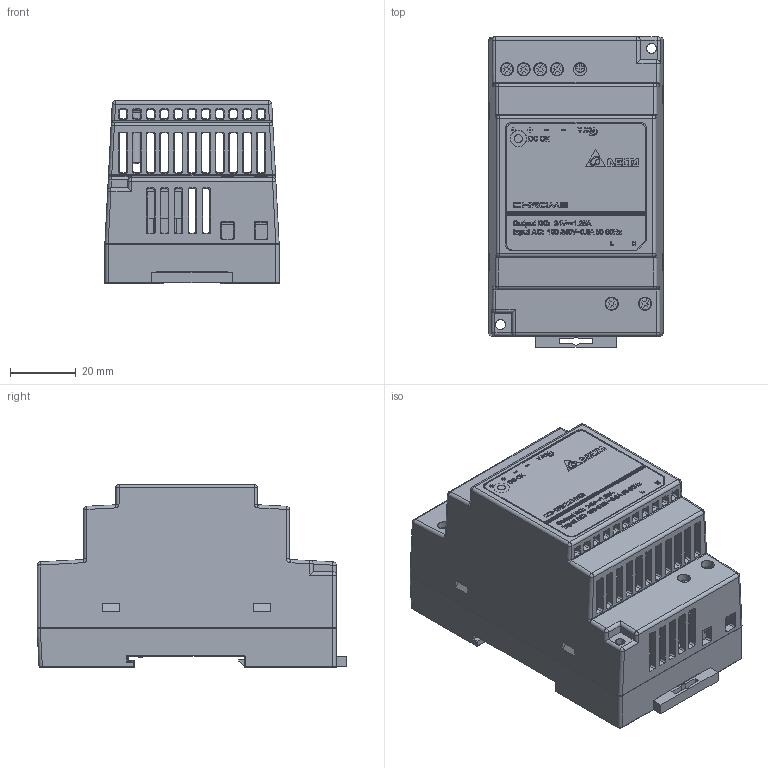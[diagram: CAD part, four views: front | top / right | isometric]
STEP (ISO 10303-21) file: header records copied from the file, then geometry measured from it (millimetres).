
FILE_DESCRIPTION((''),'2;1');
FILE_NAME('DRC-24V30W1AZ_ASM','2014-04-01T',('Anothai'),(''),'PRO/ENGINEER BY PARAMETRIC TECHNOLOGY CORPORATION, 2010180','PRO/ENGINEER BY PARAMETRIC TECHNOLOGY CORPORATION, 2010180','');
FILE_SCHEMA(('CONFIG_CONTROL_DESIGN','SHAPE_APPEARANCE_LAYERS_GROUPS'));
Products named in the file (18): 3306244100; 3306243000; LENS; 3421026502; 3268466400; PWB; EE_VR350; INPUT_103; INPUT_P201; INPUT_A03; INPUT_ASM; OUTPUT_A02; OUTPUT_PRT0001; OUTPUT_PRT0002; OUTPUT_1_ASM; OUTPUT_ASM; PWB_ASM; DRC-24V30W1AZ_ASM
Assembly tree (22 placements, depth 5):
  DRC-24V30W1AZ_ASM
    3306244100
    3306243000
    LENS
    3421026502
    3268466400
    PWB_ASM
      PWB
      EE_VR350
      INPUT_ASM
        INPUT_103  x2
        INPUT_P201  x2
        INPUT_A03
      OUTPUT_ASM
        OUTPUT_1_ASM  x2
          OUTPUT_A02
          OUTPUT_PRT0001
          OUTPUT_PRT0002
Bounding box: 53 x 94.3 x 55.7 mm (x, y, z)
Volume: 54330.7 mm3; surface area: 66332 mm2
Topology: 22 solids, 28 shells, 3638 faces, 9920 edges, 6517 vertices
Faces by surface type: plane 2088, cylinder 815, extrusion 575, torus 44, bspline 44, sphere 44, cone 28
Entity records: 135781 total; most frequent: CARTESIAN_POINT 33987, ORIENTED_EDGE 15892, DIRECTION 11852, PRESENTATION_STYLE_ASSIGNMENT 8206, EDGE_CURVE 7946, STYLED_ITEM 7560, CURVE_STYLE 7453, VECTOR 5902
